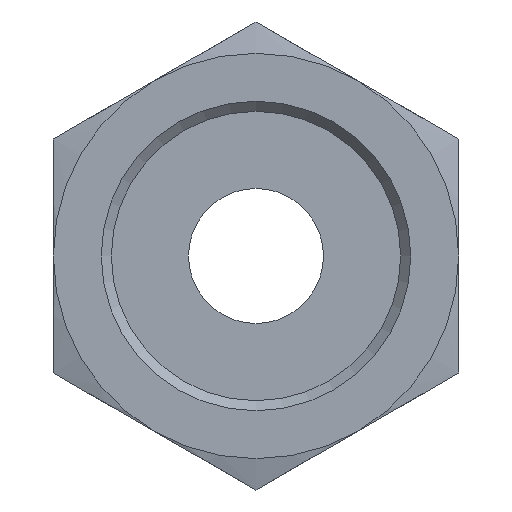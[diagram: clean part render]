
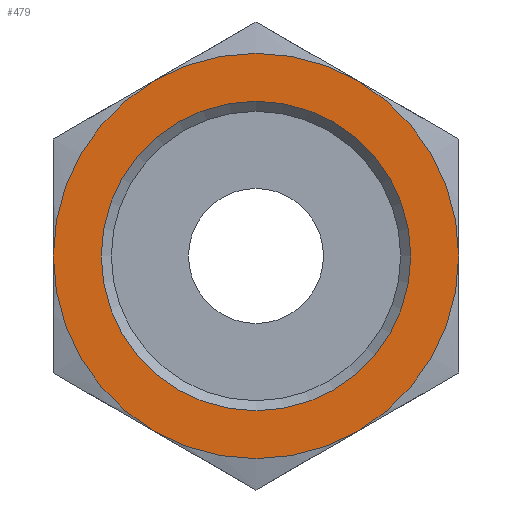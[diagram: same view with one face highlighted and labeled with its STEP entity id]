
A CAD part, front view. The second image highlights one B-rep face of the part: STEP entity #479.
In plain terms, the highlighted planar face has unit normal (0, -1, 0).
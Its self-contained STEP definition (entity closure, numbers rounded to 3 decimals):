
#40=FACE_BOUND('',#119,.T.);
#47=PLANE('',#552);
#82=FACE_OUTER_BOUND('',#118,.T.);
#118=EDGE_LOOP('',(#358,#359,#360,#361,#362,#363));
#119=EDGE_LOOP('',(#364));
#192=CIRCLE('',#547,4.583);
#196=CIRCLE('',#553,6.);
#197=CIRCLE('',#554,6.);
#198=CIRCLE('',#555,6.);
#199=CIRCLE('',#556,6.);
#200=CIRCLE('',#557,6.);
#201=CIRCLE('',#558,6.);
#222=VERTEX_POINT('',#777);
#226=VERTEX_POINT('',#789);
#227=VERTEX_POINT('',#790);
#228=VERTEX_POINT('',#792);
#229=VERTEX_POINT('',#794);
#230=VERTEX_POINT('',#796);
#231=VERTEX_POINT('',#798);
#269=EDGE_CURVE('',#222,#222,#192,.T.);
#275=EDGE_CURVE('',#226,#227,#196,.T.);
#276=EDGE_CURVE('',#227,#228,#197,.T.);
#277=EDGE_CURVE('',#228,#229,#198,.T.);
#278=EDGE_CURVE('',#229,#230,#199,.T.);
#279=EDGE_CURVE('',#230,#231,#200,.T.);
#280=EDGE_CURVE('',#231,#226,#201,.T.);
#358=ORIENTED_EDGE('',*,*,#275,.T.);
#359=ORIENTED_EDGE('',*,*,#276,.T.);
#360=ORIENTED_EDGE('',*,*,#277,.T.);
#361=ORIENTED_EDGE('',*,*,#278,.T.);
#362=ORIENTED_EDGE('',*,*,#279,.T.);
#363=ORIENTED_EDGE('',*,*,#280,.T.);
#364=ORIENTED_EDGE('',*,*,#269,.F.);
#479=ADVANCED_FACE('',(#82,#40),#47,.F.);
#547=AXIS2_PLACEMENT_3D('',#778,#637,#638);
#552=AXIS2_PLACEMENT_3D('',#788,#649,#650);
#553=AXIS2_PLACEMENT_3D('',#791,#651,#652);
#554=AXIS2_PLACEMENT_3D('',#793,#653,#654);
#555=AXIS2_PLACEMENT_3D('',#795,#655,#656);
#556=AXIS2_PLACEMENT_3D('',#797,#657,#658);
#557=AXIS2_PLACEMENT_3D('',#799,#659,#660);
#558=AXIS2_PLACEMENT_3D('',#800,#661,#662);
#637=DIRECTION('center_axis',(0.,-1.,0.));
#638=DIRECTION('ref_axis',(-1.,0.,0.));
#649=DIRECTION('center_axis',(0.,1.,0.));
#650=DIRECTION('ref_axis',(0.,0.,1.));
#651=DIRECTION('center_axis',(0.,-1.,0.));
#652=DIRECTION('ref_axis',(1.,0.,0.));
#653=DIRECTION('center_axis',(0.,-1.,0.));
#654=DIRECTION('ref_axis',(1.,0.,0.));
#655=DIRECTION('center_axis',(0.,-1.,0.));
#656=DIRECTION('ref_axis',(1.,0.,0.));
#657=DIRECTION('center_axis',(0.,-1.,0.));
#658=DIRECTION('ref_axis',(1.,0.,0.));
#659=DIRECTION('center_axis',(0.,-1.,0.));
#660=DIRECTION('ref_axis',(1.,0.,0.));
#661=DIRECTION('center_axis',(0.,-1.,0.));
#662=DIRECTION('ref_axis',(1.,0.,0.));
#777=CARTESIAN_POINT('',(4.583,0.,0.));
#778=CARTESIAN_POINT('Origin',(0.,0.,0.));
#788=CARTESIAN_POINT('Origin',(0.,0.,0.));
#789=CARTESIAN_POINT('',(-6.,0.,0.));
#790=CARTESIAN_POINT('',(-3.,0.,-5.196));
#791=CARTESIAN_POINT('Origin',(0.,0.,0.));
#792=CARTESIAN_POINT('',(3.,0.,-5.196));
#793=CARTESIAN_POINT('Origin',(0.,0.,0.));
#794=CARTESIAN_POINT('',(6.,0.,0.));
#795=CARTESIAN_POINT('Origin',(0.,0.,0.));
#796=CARTESIAN_POINT('',(3.,0.,5.196));
#797=CARTESIAN_POINT('Origin',(0.,0.,0.));
#798=CARTESIAN_POINT('',(-3.,0.,5.196));
#799=CARTESIAN_POINT('Origin',(0.,0.,0.));
#800=CARTESIAN_POINT('Origin',(0.,0.,0.));
